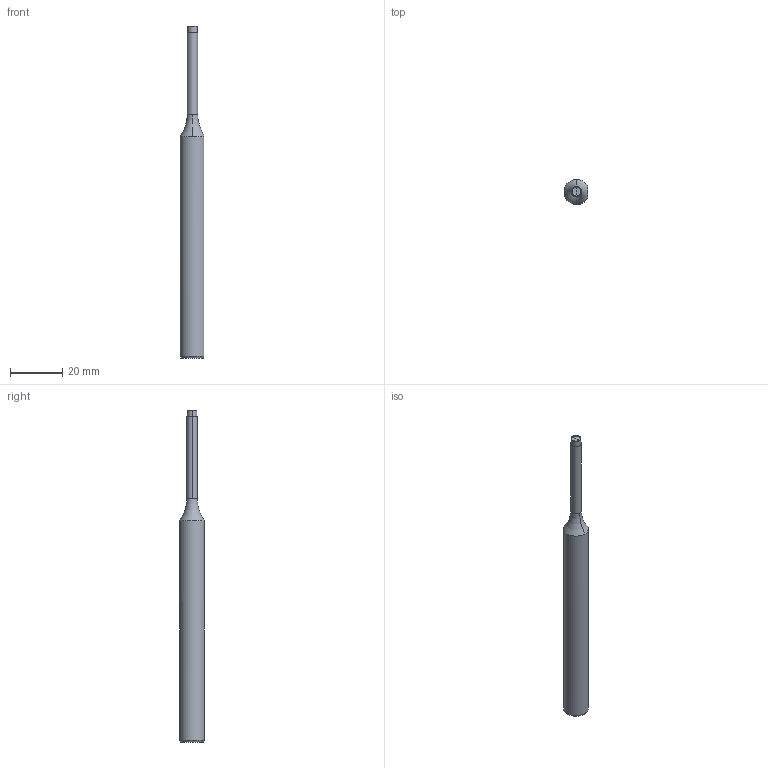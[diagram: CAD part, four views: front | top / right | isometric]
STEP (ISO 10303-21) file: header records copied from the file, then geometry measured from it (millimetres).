
FILE_DESCRIPTION (( 'STEP AP203' ), '1' );
FILE_NAME ('39000.1040.step', '2023-12-18T13:18:10', ( '' ), ( '' ), 'SwSTEP 2.0', 'SolidWorks 2019', '' );
FILE_SCHEMA (( 'CONFIG_CONTROL_DESIGN' ));
Length unit declared in the file: millimetre
Products named in the file (1): 39000.1040
Bounding box: 9.16 x 9.53 x 127 mm (x, y, z)
Volume: 6619.8 mm3; surface area: 3192.6 mm2
Topology: 1 solids, 1 shells, 15 faces, 33 edges, 22 vertices
Faces by surface type: cylinder 5, plane 4, cone 2, torus 2, sphere 2
Entity records: 530 total; most frequent: CARTESIAN_POINT 100, DIRECTION 85, ORIENTED_EDGE 66, AXIS2_PLACEMENT_3D 39, EDGE_CURVE 33, CIRCLE 23, VERTEX_POINT 22, EDGE_LOOP 17
